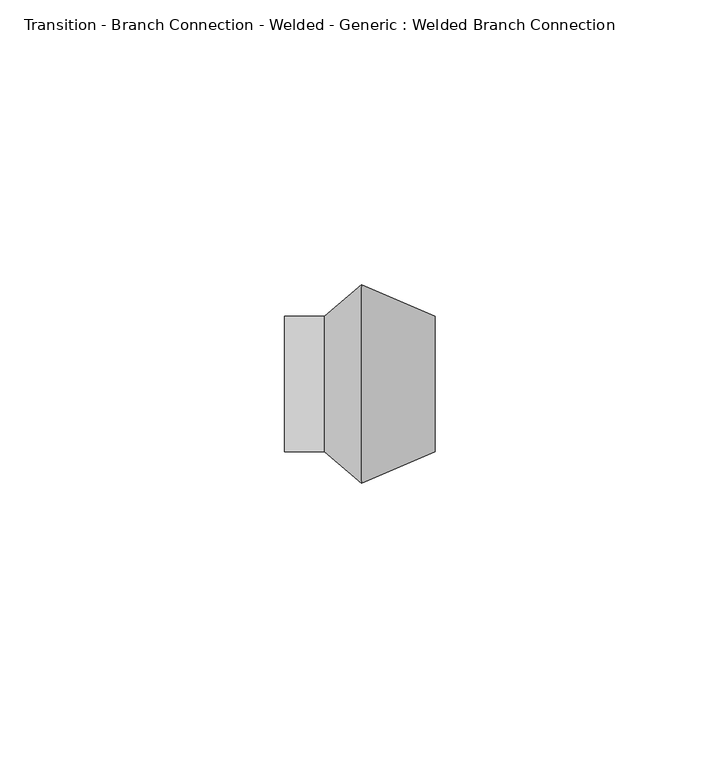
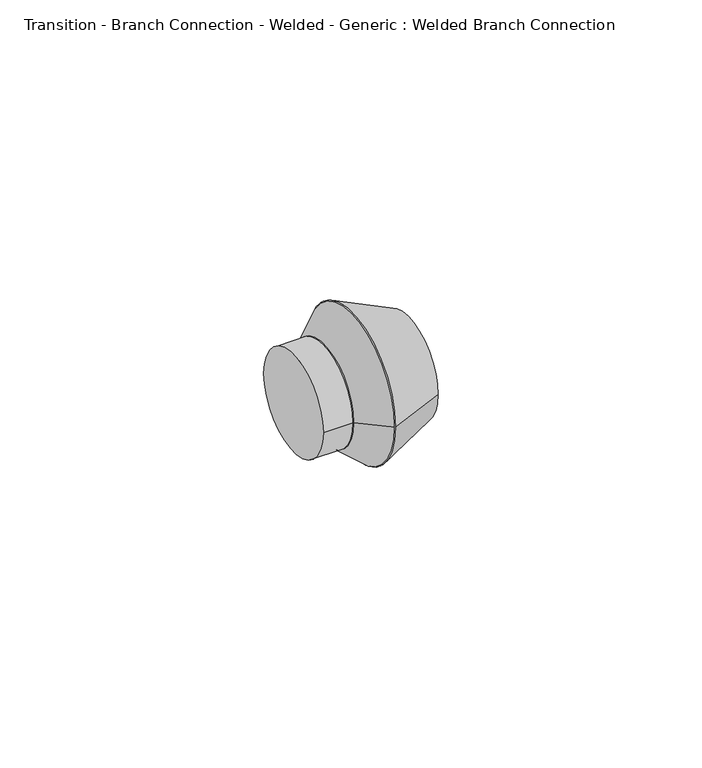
"""IFC4 building model written with IfcOpenShell, lengths in millimetres: pipe fitting geometry, Transition - Branch Connection - Welded - Generic : Welded Branch Connection."""

from ifc_helpers import new_model, si_unit, point, frame, origin, origin_2d, place, context, project, spatial, polyline, circle_curve, trimmed, segment, composite_curve, outline, extrude, source, transform, mapped, element, save
from ifc_brep_helpers import plane_surface, revolved_surface, advanced_brep


def transition_branch_connection_welded_generic_welded_branch_a3c0a1f0(model_context):
    return source(origin(), model_context, "Body", "SolidModel", [
        advanced_brep(
        [(6.4947542, -17.4625, 0.0), (6.4947542, 17.4625, 0.0), (19.4842627, -11.90625, 0.0), (19.4842627, 11.90625, 0.0)],
        [
            (0, 1, circle_curve(frame((6.4947542, 0.0, 0.0), z_axis=(-1.0, 0.0, 0.0), x_axis=(0.0, -1.0, 0.0)), 17.4625)),
            (1, 0, circle_curve(frame((6.4947542, 0.0, 0.0), z_axis=(-1.0, 0.0, 0.0), x_axis=(0.0, 1.0, 0.0)), 17.4625)),
            (2, 3, circle_curve(frame((19.4842627, 0.0, 0.0), z_axis=(1.0, 0.0, 0.0), x_axis=(0.0, 1.0, 0.0)), 11.90625)),
            (3, 2, circle_curve(frame((19.4842627, 0.0, 0.0), z_axis=(1.0, 0.0, 0.0), x_axis=(0.0, -1.0, 0.0)), 11.90625)),
            (2, 0),
            (1, 3),
        ],
        [
            plane_surface(frame((6.4947542, 0.0, 0.0), z_axis=(-1.0, 0.0, 0.0), x_axis=(0.0, 0.0, -1.0))),
            plane_surface(frame((19.4842627, 0.0, 0.0), z_axis=(1.0, 0.0, 0.0), x_axis=(0.0, 0.0, -1.0))),
            revolved_surface(polyline([(19.4842627, -11.906249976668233, 0.0), (6.494754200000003, -17.4625, 0.0)]), (47.3189236, 0.0, 0.0), (-1.0, 0.0, 0.0)),
            revolved_surface(polyline([(19.4842627, 11.906249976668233, 0.0), (6.494754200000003, 17.4625, 0.0)]), (47.3189236, 0.0, 0.0), (-1.0, 0.0, 0.0)),
        ],
        [
            (0, [[1, 2]]),
            (1, [[3, 4]]),
            (2, [[-3, 5, -2, 6]]),
            (3, [[-4, -6, -1, -5]]),
        ],
    ),
        advanced_brep(
        [(6.4947542, -17.4625, 0.0), (6.4947542, 17.4625, 0.0), (0.0, -11.90625, 0.0), (0.0, 11.90625, 0.0)],
        [
            (0, 1, circle_curve(frame((6.4947542, 0.0, 0.0), z_axis=(1.0, 0.0, 0.0), x_axis=(0.0, -1.0, 0.0)), 17.4625)),
            (1, 0, circle_curve(frame((6.4947542, 0.0, 0.0), z_axis=(1.0, 0.0, 0.0), x_axis=(0.0, 1.0, 0.0)), 17.4625)),
            (2, 3, circle_curve(frame((0.0, 0.0, 0.0), z_axis=(-1.0, 0.0, 0.0), x_axis=(0.0, 1.0, 0.0)), 11.90625)),
            (3, 2, circle_curve(frame((0.0, 0.0, 0.0), z_axis=(-1.0, 0.0, 0.0), x_axis=(0.0, -1.0, 0.0)), 11.90625)),
            (3, 1),
            (0, 2),
        ],
        [
            plane_surface(frame((6.4947542, 0.0, 0.0), z_axis=(1.0, 0.0, 0.0), x_axis=(0.0, 0.0, -1.0))),
            plane_surface(frame((0.0, 0.0, 0.0), z_axis=(-1.0, 0.0, 0.0), x_axis=(0.0, 0.0, -1.0))),
            revolved_surface(polyline([(0.0, 11.906250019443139, 0.0), (6.494754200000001, 17.4625, 0.0)]), (-13.9173305, 0.0, 0.0), (1.0, 0.0, 0.0)),
            revolved_surface(polyline([(0.0, -11.906250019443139, 0.0), (6.494754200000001, -17.4625, 0.0)]), (-13.9173305, 0.0, 0.0), (1.0, 0.0, 0.0)),
        ],
        [
            (0, [[1, 2]]),
            (1, [[3, 4]]),
            (2, [[-4, 5, -1, 6]]),
            (3, [[-3, -6, -2, -5]]),
        ],
    ),
        extrude(outline(composite_curve([segment(trimmed(circle_curve(origin_2d(), 11.90625), [point((-11.90625, 0.0))], [point((11.90625, 0.0))], False, "CARTESIAN"), True, "CONTINUOUS"), segment(trimmed(circle_curve(origin_2d(), 11.90625), [point((11.90625, 0.0))], [point((-11.90625, 0.0))], False, "CARTESIAN"), True, "CONTINUOUS")], self_intersect=False)), frame((-7.018431, 0.0, 0.0), z_axis=(1.0, 0.0, 0.0), x_axis=(0.0, 1.0, 0.0)), (0.0, 0.0, 1.0), 7.018431),
    ])


if __name__ == "__main__":
    model = new_model("IFC4")
    model_context = context("Model", 3, world=origin())
    ifc_project = project(units=[si_unit("LENGTHUNIT", "METRE", prefix="MILLI")], contexts=[model_context])
    site = spatial("IfcSite", under=ifc_project)
    building = spatial("IfcBuilding", under=site)
    placement = place(None, origin())
    transition_branch_connection_welded_generic_welded_branch_shape = transition_branch_connection_welded_generic_welded_branch_a3c0a1f0(model_context)
    element("IfcPipeFitting", 1, ObjectType="Transition - Branch Connection - Welded - Generic : Welded Branch Connection", at=placement, inside=building, context=model_context, shape_type="MappedRepresentation", body=[
        mapped(transition_branch_connection_welded_generic_welded_branch_shape, transform((0.0, 0.0, 0.0), x_axis=(1.0, 0.0, 0.0), y_axis=(0.0, 1.0, 0.0), z_axis=(0.0, 0.0, 1.0))),
    ])
    save(model, "model.ifc")
